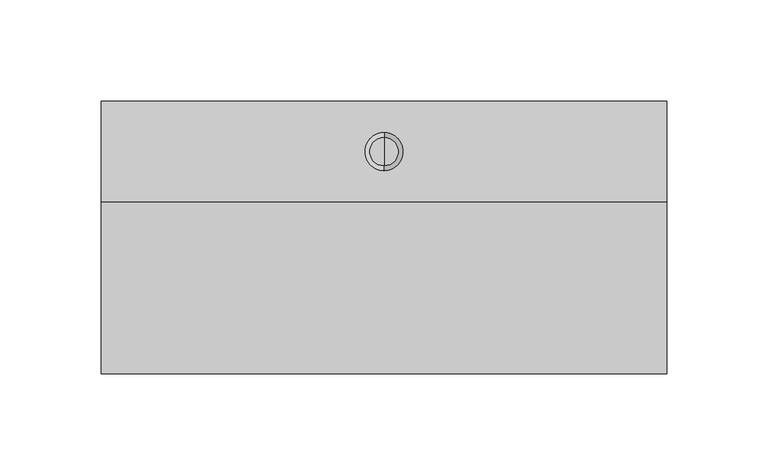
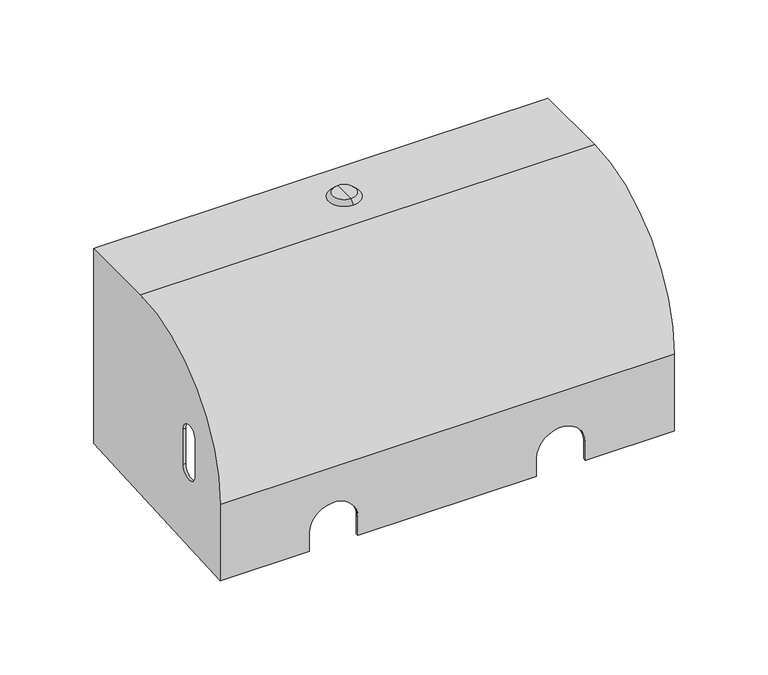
"""IFC4 building model written with IfcOpenShell, lengths in millimetres: proxy geometry, Toilet Roll Dispenser_Metlam_Double_Cabinet_Arc : 280w x 135d x 135h (ML835_TRH)."""

from ifc_helpers import new_model, si_unit, frame, origin, place, context, project, spatial, polyline, circle_curve, source, transform, mapped, element, save
from ifc_brep_helpers import plane_surface, cylinder_surface, revolved_surface, advanced_brep


def specialty_equipment_cb105d27(model_context):
    return source(origin(), model_context, "Body", "AdvancedBrep", [
        advanced_brep(
        [(140.0, -50.0, 720.0), (140.0, -135.0, 635.0), (140.0, -135.0, 585.0), (140.0, 0.0, 592.7545765), (140.0, 0.0, 720.0), (140.0, -108.1626609, 660.2081149), (140.0, -95.6626609, 660.2081149), (140.0, -95.6626609, 637.2000658), (140.0, -108.1626609, 637.2000658), (-140.0, -50.0, 720.0), (-140.0, 0.0, 720.0), (-140.0, 0.0, 592.7545765), (-140.0, -135.0, 585.0), (-140.0, -135.0, 635.0), (-140.0, -95.6626609, 660.2081149), (-140.0, -108.1626609, 660.2081149), (-140.0, -108.1626609, 637.2000658), (-140.0, -95.6626609, 637.2000658), (138.4, -50.0, 720.0), (-138.4, -50.0, 720.0), (-138.4, -135.0, 635.0), (138.4, -135.0, 635.0), (85.0, -135.0, 585.0), (-85.0, -135.0, 585.0), (-85.0, -135.0, 596.8340962), (-55.0, -135.0, 596.8340962), (-55.0, -135.0, 585.0), (55.0, -135.0, 585.0), (55.0, -135.0, 596.8340962), (85.0, -135.0, 596.8340962), (85.0, -133.4, 585.0919061), (138.4, -133.4, 585.0919061), (138.4, -1.6, 592.6626705), (-138.4, -1.6, 592.6626705), (-138.4, -133.4, 585.0919061), (-85.0, -133.4, 585.0919061), (-55.0, -133.4, 585.0919061), (55.0, -133.4, 585.0919061), (-138.4, 0.0, 720.0), (138.4, 0.0, 720.0), (-138.4, -50.0, 718.4), (-138.4, -1.6, 718.4), (138.4, -1.6, 718.4), (138.4, -50.0, 718.4), (-55.0, -133.4, 596.8340962), (-85.0, -133.4, 596.8340962), (-138.4, -133.4, 635.0), (138.4, -133.4, 635.0), (85.0, -133.4, 596.8340962), (55.0, -133.4, 596.8340962), (-138.4, -95.6626609, 660.2081149), (-138.4, -108.1626609, 660.2081149), (-138.4, -108.1626609, 637.2000658), (-138.4, -95.6626609, 637.2000658), (138.4, -95.6626609, 660.2081149), (138.4, -108.1626609, 660.2081149), (138.4, -108.1626609, 637.2000658), (138.4, -95.6626609, 637.2000658)],
        [
            (0, 1, circle_curve(frame((140.0, -50.0, 635.0), z_axis=(1.0, 0.0, 0.0), x_axis=(0.0, 1.0, 0.0)), 85.0)),
            (1, 2),
            (2, 3),
            (3, 4),
            (4, 0),
            (5, 6, circle_curve(frame((140.0, -101.9126609, 660.2081149), z_axis=(-1.0, 0.0, 0.0), x_axis=(0.0, -1.0, 0.0)), 6.25)),
            (6, 7),
            (7, 8, circle_curve(frame((140.0, -101.9126609, 637.2000658), z_axis=(-1.0, 0.0, 0.0), x_axis=(0.0, -1.0, 0.0)), 6.25)),
            (8, 5),
            (9, 10),
            (10, 11),
            (11, 12),
            (12, 13),
            (13, 9, circle_curve(frame((-140.0, -50.0, 635.0), z_axis=(-1.0, 0.0, 0.0), x_axis=(0.0, 1.0, 0.0)), 85.0)),
            (14, 15, circle_curve(frame((-140.0, -101.9126609, 660.2081149), z_axis=(1.0, 0.0, 0.0), x_axis=(0.0, -1.0, 0.0)), 6.25)),
            (15, 16),
            (16, 17, circle_curve(frame((-140.0, -101.9126609, 637.2000658), z_axis=(1.0, 0.0, 0.0), x_axis=(0.0, -1.0, 0.0)), 6.25)),
            (17, 14),
            (0, 18),
            (18, 19),
            (19, 9),
            (13, 20),
            (20, 21),
            (21, 1),
            (22, 2),
            (12, 23),
            (23, 24),
            (24, 25, circle_curve(frame((-70.0, -135.0, 596.8340962), z_axis=(0.0, 1.0, 0.0), x_axis=(-1.0, 0.0, 0.0)), 15.0)),
            (25, 26),
            (26, 27),
            (27, 28),
            (28, 29, circle_curve(frame((70.0, -135.0, 596.8340962), z_axis=(0.0, 1.0, 0.0), x_axis=(-1.0, 0.0, 0.0)), 15.0)),
            (29, 22),
            (22, 30),
            (30, 31),
            (31, 32),
            (32, 33),
            (33, 34),
            (34, 35),
            (35, 23),
            (11, 3),
            (26, 36),
            (36, 37),
            (37, 27),
            (10, 38),
            (38, 39),
            (39, 4),
            (40, 41),
            (41, 42),
            (42, 43),
            (43, 40),
            (41, 33),
            (32, 42),
            (36, 44),
            (44, 45, circle_curve(frame((-70.0, -133.4, 596.8340962), z_axis=(0.0, -1.0, 0.0), x_axis=(-1.0, 0.0, 0.0)), 15.0)),
            (45, 35),
            (34, 46),
            (46, 47),
            (47, 31),
            (30, 48),
            (48, 49, circle_curve(frame((70.0, -133.4, 596.8340962), z_axis=(0.0, -1.0, 0.0), x_axis=(-1.0, 0.0, 0.0)), 15.0)),
            (49, 37),
            (46, 40, circle_curve(frame((-138.4, -50.0, 635.0), z_axis=(-1.0, 0.0, 0.0), x_axis=(0.0, 1.0, 0.0)), 83.4)),
            (43, 47, circle_curve(frame((138.4, -50.0, 635.0), z_axis=(1.0, 0.0, 0.0), x_axis=(0.0, 1.0, 0.0)), 83.4)),
            (14, 50),
            (50, 51, circle_curve(frame((-138.4, -101.9126609, 660.2081149), z_axis=(1.0, 0.0, 0.0), x_axis=(0.0, -1.0, 0.0)), 6.25)),
            (51, 15),
            (51, 52),
            (52, 16),
            (52, 53, circle_curve(frame((-138.4, -101.9126609, 637.2000658), z_axis=(1.0, 0.0, 0.0), x_axis=(0.0, -1.0, 0.0)), 6.25)),
            (53, 17),
            (53, 50),
            (25, 44),
            (24, 45),
            (29, 48),
            (28, 49),
            (54, 55, circle_curve(frame((138.4, -101.9126609, 660.2081149), z_axis=(1.0, 0.0, 0.0), x_axis=(0.0, -1.0, 0.0)), 6.25)),
            (55, 56),
            (56, 57, circle_curve(frame((138.4, -101.9126609, 637.2000658), z_axis=(1.0, 0.0, 0.0), x_axis=(0.0, -1.0, 0.0)), 6.25)),
            (57, 54),
            (54, 6),
            (5, 55),
            (8, 56),
            (7, 57),
        ],
        [
            plane_surface(frame((140.0, 35.0, 635.0), z_axis=(1.0, 0.0, 0.0), x_axis=(0.0, 0.0, 1.0))),
            plane_surface(frame((-140.0, 35.0, 635.0), z_axis=(-1.0, 0.0, 0.0), x_axis=(0.0, 0.0, -1.0))),
            cylinder_surface(frame((-140.0, -50.0, 635.0), z_axis=(1.0, 0.0, 0.0), x_axis=(0.0, 1.0, 0.0)), 85.0),
            plane_surface(frame((140.0, -135.0, 635.0), z_axis=(0.0, -1.0, 0.0), x_axis=(-1.0, 0.0, 0.0))),
            plane_surface(frame((140.0, -135.0, 585.0), z_axis=(0.0, 0.05734677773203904, -0.9983543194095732), x_axis=(-1.0, 0.0, 0.0))),
            plane_surface(frame((140.0, 0.0, 592.7545765), z_axis=(0.0, 1.0, 0.0), x_axis=(-1.0, 0.0, 0.0))),
            plane_surface(frame((140.0, 0.0, 720.0), z_axis=(0.0, 0.0, 1.0), x_axis=(-1.0, 0.0, 0.0))),
            plane_surface(frame((140.0, -50.0, 718.4), z_axis=(0.0, 0.0, -1.0), x_axis=(-1.0, 0.0, 0.0))),
            plane_surface(frame((140.0, -1.6, 718.4), z_axis=(0.0, -1.0, 0.0), x_axis=(-1.0, 0.0, 0.0))),
            plane_surface(frame((140.0, -133.4, 585.0919061), z_axis=(0.0, 1.0, 0.0), x_axis=(-1.0, 0.0, 0.0))),
            revolved_surface(polyline([(-138.4, 33.400000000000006, 635.0), (138.39999999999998, 33.400000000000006, 635.0)]), (-140.0, -50.0, 635.0), (-1.0, 0.0, 0.0)),
            revolved_surface(polyline([(-140.0, -108.1626609, 660.2081149), (-138.4, -108.1626609, 660.2081149)]), (-138.4, -101.9126609, 660.2081149), (-1.0, 0.0, 0.0)),
            plane_surface(frame((-140.0, -108.1626609, 637.2000658), z_axis=(0.0, 1.0, 0.0), x_axis=(1.0, 0.0, 0.0))),
            revolved_surface(polyline([(-140.0, -108.1626609, 637.2000658), (-138.4, -108.1626609, 637.2000658)]), (-138.4, -101.9126609, 637.2000658), (-1.0, 0.0, 0.0)),
            plane_surface(frame((-140.0, -95.6626609, 660.2081149), z_axis=(0.0, -1.0, 0.0), x_axis=(1.0, 0.0, 0.0))),
            plane_surface(frame((-55.0, -126.2761653, 596.8340962), z_axis=(-1.0, 0.0, 0.0), x_axis=(0.0, -1.0, 0.0))),
            revolved_surface(polyline([(-85.0, -133.4, 596.8340962), (-85.0, -135.0, 596.8340962)]), (-70.0, -145.1283016, 596.8340962), (0.0, 1.0, 0.0)),
            plane_surface(frame((-85.0, -126.2761653, 584.2), z_axis=(1.0, 0.0, 0.0), x_axis=(0.0, -1.0, 0.0))),
            plane_surface(frame((85.0, -126.2761653, 596.8340962), z_axis=(-1.0, 0.0, 0.0), x_axis=(0.0, -1.0, 0.0))),
            revolved_surface(polyline([(55.0, -133.4, 596.8340962), (55.0, -135.0, 596.8340962)]), (70.0, -135.0, 596.8340962), (0.0, 1.0, 0.0)),
            plane_surface(frame((55.0, -126.2761653, 584.5), z_axis=(1.0, 0.0, 0.0), x_axis=(0.0, -1.0, 0.0))),
            plane_surface(frame((-138.4, -135.0, 585.0), z_axis=(1.0, 0.0, 0.0), x_axis=(0.0, 0.9983543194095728, 0.05734677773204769))),
            plane_surface(frame((138.4, -135.0, 585.0), z_axis=(-1.0, 0.0, 0.0), x_axis=(0.0, -0.9983543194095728, -0.05734677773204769))),
            revolved_surface(polyline([(138.4, -108.1626609, 660.2081149), (140.0, -108.1626609, 660.2081149)]), (140.0, -101.9126609, 660.2081149), (-1.0, 0.0, 0.0)),
            plane_surface(frame((138.4, -108.1626609, 637.2000658), z_axis=(0.0, 1.0, 0.0), x_axis=(1.0, 0.0, 0.0))),
            revolved_surface(polyline([(138.4, -108.1626609, 637.2000658), (140.0, -108.1626609, 637.2000658)]), (140.0, -101.9126609, 637.2000658), (-1.0, 0.0, 0.0)),
            plane_surface(frame((138.4, -95.6626609, 660.2081149), z_axis=(0.0, -1.0, 0.0), x_axis=(1.0, 0.0, 0.0))),
        ],
        [
            (0, [[1, 2, 3, 4, 5], [6, 7, 8, 9]]),
            (1, [[10, 11, 12, 13, 14], [15, 16, 17, 18]]),
            (2, [[-1, 19, 20, 21, -14, 22, 23, 24]]),
            (3, [[25, -2, -24, -23, -22, -13, 26, 27, 28, 29, 30, 31, 32, 33]]),
            (4, [[-3, -25, 34, 35, 36, 37, 38, 39, 40, -26, -12, 41]]),
            (4, [[-30, 42, 43, 44]]),
            (5, [[-4, -41, -11, 45, 46, 47]]),
            (6, [[-5, -47, -46, -45, -10, -21, -20, -19]]),
            (7, [[48, 49, 50, 51]]),
            (8, [[52, -37, 53, -49]]),
            (9, [[-43, 54, 55, 56, -39, 57, 58, 59, -35, 60, 61, 62]]),
            (10, [[63, -51, 64, -58]]),
            (11, [[65, 66, 67, -15]]),
            (12, [[-67, 68, 69, -16]]),
            (13, [[-69, 70, 71, -17]]),
            (14, [[-65, -18, -71, 72]]),
            (15, [[73, -54, -42, -29]]),
            (16, [[-73, -28, 74, -55]]),
            (17, [[-74, -27, -40, -56]]),
            (18, [[75, -60, -34, -33]]),
            (19, [[-75, -32, 76, -61]]),
            (20, [[-76, -31, -44, -62]]),
            (21, [[-38, -52, -48, -63, -57], [-66, -72, -70, -68]]),
            (22, [[-36, -59, -64, -50, -53], [77, 78, 79, 80]]),
            (23, [[81, -6, 82, -77]]),
            (24, [[-82, -9, 83, -78]]),
            (25, [[-83, -8, 84, -79]]),
            (26, [[-81, -80, -84, -7]]),
        ],
    ),
        advanced_brep(
        [(0.0, -25.0, 723.0), (0.0, -18.0, 723.0), (0.0, -32.0, 723.0), (0.0, -35.0, 720.0), (0.0, -15.0, 720.0), (0.0, -25.0, 720.0)],
        [
            (0, 1),
            (1, 2, circle_curve(frame((0.0, -25.0, 723.0), z_axis=(0.0, 0.0, 1.0), x_axis=(0.0, 1.0, 0.0)), 7.0)),
            (2, 0),
            (2, 1, circle_curve(frame((0.0, -25.0, 723.0), z_axis=(0.0, 0.0, 1.0), x_axis=(0.0, 1.0, 0.0)), 7.0)),
            (3, 4, circle_curve(frame((0.0, -25.0, 720.0), z_axis=(0.0, 0.0, -1.0), x_axis=(0.0, 1.0, 0.0)), 10.0)),
            (4, 5),
            (5, 3),
            (4, 3, circle_curve(frame((0.0, -25.0, 720.0), z_axis=(0.0, 0.0, -1.0), x_axis=(0.0, 1.0, 0.0)), 10.0)),
            (1, 4),
            (3, 2),
        ],
        [
            plane_surface(frame((0.0, -25.0, 723.0), z_axis=(0.0, 0.0, 1.0), x_axis=(0.0, 1.0, 0.0))),
            plane_surface(frame((0.0, -25.0, 720.0), z_axis=(0.0, 0.0, -1.0), x_axis=(0.0, 1.0, 0.0))),
            revolved_surface(polyline([(0.0, -15.0, 720.0), (0.0, -18.0, 723.0)]), (0.0, -25.0, 715.0), (0.0, 0.0, 1.0)),
        ],
        [
            (0, [[1, 2, 3]]),
            (0, [[-3, 4, -1]]),
            (1, [[5, 6, 7]]),
            (1, [[8, -7, -6]]),
            (2, [[-2, 9, -5, 10]]),
            (2, [[-4, -10, -8, -9]]),
        ],
    ),
    ])


if __name__ == "__main__":
    model = new_model("IFC4")
    model_context = context("Model", 3, world=origin())
    ifc_project = project(units=[si_unit("LENGTHUNIT", "METRE", prefix="MILLI")], contexts=[model_context])
    site = spatial("IfcSite", under=ifc_project)
    building = spatial("IfcBuilding", under=site)
    placement = place(None, origin())
    specialty_equipment_shape = specialty_equipment_cb105d27(model_context)
    element("IfcBuildingElementProxy", 1, Name="Toilet Roll Dispenser_Metlam_Double_Cabinet_Arc : 280w x 135d x 135h (ML835_TRH)", ObjectType="Toilet Roll Dispenser_Metlam_Double_Cabinet_Arc : 280w x 135d x 135h (ML835_TRH)", at=placement, inside=building, context=model_context, shape_type="MappedRepresentation", body=[
        mapped(specialty_equipment_shape, transform((0.0, 0.0, 0.0), x_axis=(1.0, 0.0, 0.0), y_axis=(0.0, 1.0, 0.0), z_axis=(0.0, 0.0, 1.0))),
    ])
    save(model, "model.ifc")
